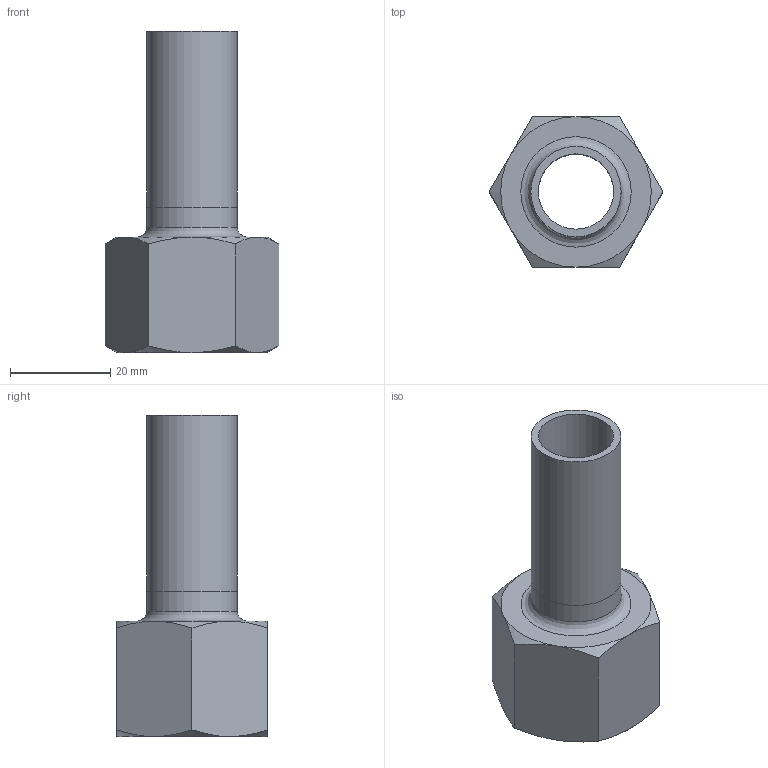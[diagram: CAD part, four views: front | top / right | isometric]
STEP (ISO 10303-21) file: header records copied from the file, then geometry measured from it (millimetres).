
FILE_DESCRIPTION((''),'2;1');
FILE_NAME('G:\Nirosan-Schmiedefeld\Technics\CAD\001 Serie 9.000\018\69246G1834H(1).stp','2017-06-20T15:47:06',('herberg'),(''),'Autodesk Inventor 2009','Autodesk Inventor 2009','');
FILE_SCHEMA(('AUTOMOTIVE_DESIGN { 1 0 10303 214 1 1 1 1 }'));
Length unit declared in the file: millimetre
Products named in the file (3): 69246G1834H(1); 69FXE18P(0); IG1834(1)
Assembly tree (2 placements, depth 2):
  69246G1834H(1)
    69FXE18P(0)
    IG1834(1)
Bounding box: 34.64 x 30 x 64 mm (x, y, z)
Volume: 11683.3 mm3; surface area: 9466.4 mm2
Topology: 2 solids, 2 shells, 31 faces, 62 edges, 37 vertices
Faces by surface type: cone 13, plane 11, bspline 4, cylinder 3
Full cylindrical faces by diameter (mm): 15 x1, 18 x2
Entity records: 884 total; most frequent: CARTESIAN_POINT 255, DIRECTION 118, ORIENTED_EDGE 108, AXIS2_PLACEMENT_3D 56, EDGE_CURVE 54, EDGE_LOOP 44, VERTEX_POINT 36, FACE_OUTER_BOUND 31
